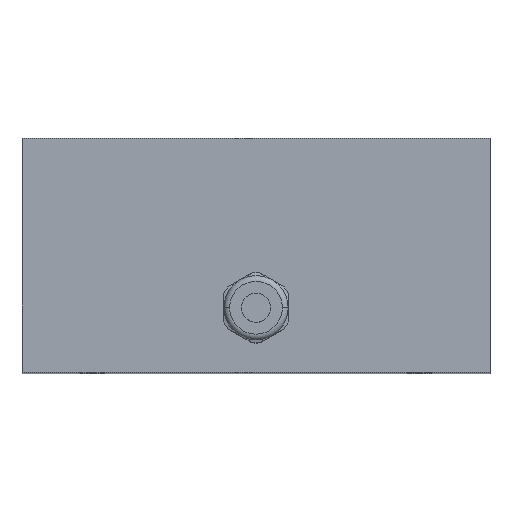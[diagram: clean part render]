
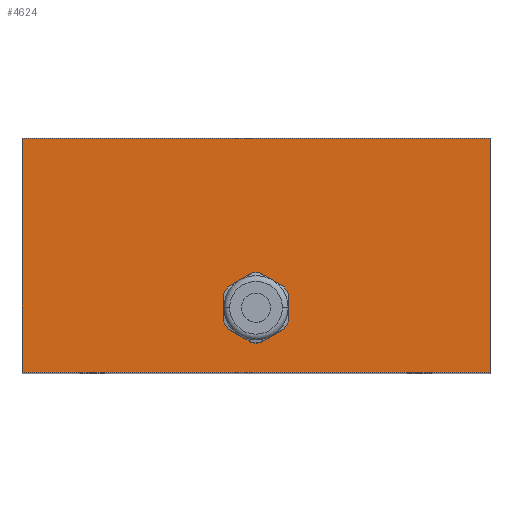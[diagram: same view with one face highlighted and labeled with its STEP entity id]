
A CAD part, top view. The second image highlights one B-rep face of the part: STEP entity #4624.
In plain terms, the highlighted planar face has unit normal (0, 0, 1).
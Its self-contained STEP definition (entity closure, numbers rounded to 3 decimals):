
#118 = DIRECTION ( 'NONE',  ( 0., -1., 0. ) ) ;
#120 = CARTESIAN_POINT ( 'NONE',  ( 40., 40., 70. ) ) ;
#124 = LINE ( 'NONE', #120, #2230 ) ;
#206 = VERTEX_POINT ( 'NONE', #4197 ) ;
#306 = CARTESIAN_POINT ( 'NONE',  ( -40., 40., 70. ) ) ;
#458 = CARTESIAN_POINT ( 'NONE',  ( 40., 40., 70. ) ) ;
#842 = AXIS2_PLACEMENT_3D ( 'NONE', #306, #1871, #3262 ) ;
#969 = EDGE_CURVE ( 'NONE', #4520, #2049, #3129, .T. ) ;
#1389 = EDGE_CURVE ( 'NONE', #4520, #2843, #2604, .T. ) ;
#1672 = CARTESIAN_POINT ( 'NONE',  ( -40., 0., 70. ) ) ;
#1871 = DIRECTION ( 'NONE',  ( 0., 0., -1. ) ) ;
#2026 = VECTOR ( 'NONE', #3268, 1000. ) ;
#2049 = VERTEX_POINT ( 'NONE', #1672 ) ;
#2116 = EDGE_LOOP ( 'NONE', ( #3253, #3541, #3442, #3572 ) ) ;
#2230 = VECTOR ( 'NONE', #118, 1000. ) ;
#2232 = FACE_OUTER_BOUND ( 'NONE', #2116, .T. ) ;
#2599 = DIRECTION ( 'NONE',  ( 1., 0., 0. ) ) ;
#2603 = CARTESIAN_POINT ( 'NONE',  ( -40., 40., 70. ) ) ;
#2604 = LINE ( 'NONE', #2603, #3611 ) ;
#2843 = VERTEX_POINT ( 'NONE', #458 ) ;
#3124 = DIRECTION ( 'NONE',  ( 0., -1., 0. ) ) ;
#3126 = CARTESIAN_POINT ( 'NONE',  ( -40., 40., 70. ) ) ;
#3129 = LINE ( 'NONE', #3126, #4592 ) ;
#3253 = ORIENTED_EDGE ( 'NONE', *, *, #3557, .T. ) ;
#3262 = DIRECTION ( 'NONE',  ( -1., 0., 0. ) ) ;
#3264 = EDGE_CURVE ( 'NONE', #2843, #206, #124, .T. ) ;
#3268 = DIRECTION ( 'NONE',  ( 1., 0., 0. ) ) ;
#3293 = CARTESIAN_POINT ( 'NONE',  ( -40., 0., 70. ) ) ;
#3316 = LINE ( 'NONE', #3293, #2026 ) ;
#3442 = ORIENTED_EDGE ( 'NONE', *, *, #1389, .F. ) ;
#3541 = ORIENTED_EDGE ( 'NONE', *, *, #3264, .F. ) ;
#3557 = EDGE_CURVE ( 'NONE', #2049, #206, #3316, .T. ) ;
#3572 = ORIENTED_EDGE ( 'NONE', *, *, #969, .T. ) ;
#3600 = PLANE ( 'NONE',  #842 ) ;
#3611 = VECTOR ( 'NONE', #2599, 1000. ) ;
#4197 = CARTESIAN_POINT ( 'NONE',  ( 40., 0., 70. ) ) ;
#4212 = CARTESIAN_POINT ( 'NONE',  ( -40., 40., 70. ) ) ;
#4520 = VERTEX_POINT ( 'NONE', #4212 ) ;
#4592 = VECTOR ( 'NONE', #3124, 1000. ) ;
#4624 = ADVANCED_FACE ( 'NONE', ( #2232 ), #3600, .F. ) ;
